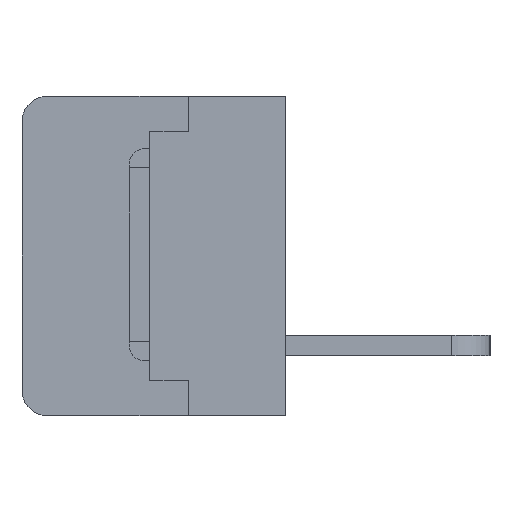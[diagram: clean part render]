
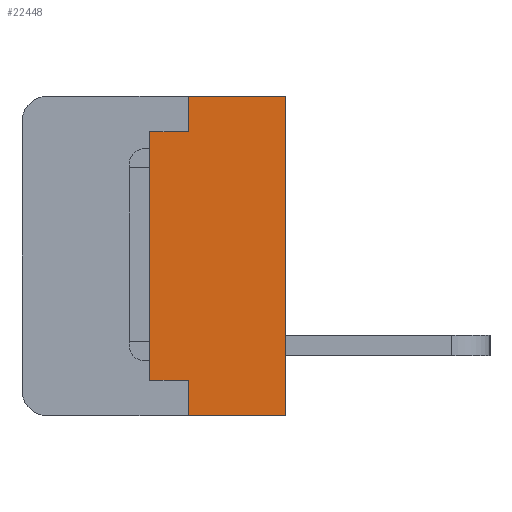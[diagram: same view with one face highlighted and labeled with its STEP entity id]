
A CAD part, left-side view. The second image highlights one B-rep face of the part: STEP entity #22448.
In plain terms, the highlighted planar face has unit normal (-1, 0, 0).
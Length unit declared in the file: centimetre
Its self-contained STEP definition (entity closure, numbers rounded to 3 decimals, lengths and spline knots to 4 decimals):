
#1360=PLANE('',#36937);
#2080=VECTOR('',#23755,1.);
#2175=VECTOR('',#23906,1.);
#2205=VECTOR('',#23939,1.);
#2234=VECTOR('',#23969,1.);
#3437=VECTOR('',#26816,1.);
#3438=VECTOR('',#26817,1.);
#3439=VECTOR('',#26818,1.);
#3440=VECTOR('',#26819,1.);
#4416=LINE('',#29481,#2080);
#4511=LINE('',#29700,#2175);
#4541=LINE('',#29762,#2205);
#4570=LINE('',#29819,#2234);
#5773=LINE('',#34062,#3437);
#5774=LINE('',#34064,#3438);
#5775=LINE('',#34065,#3439);
#5776=LINE('',#34067,#3440);
#6688=VERTEX_POINT('',#29480);
#6689=VERTEX_POINT('',#29482);
#6742=VERTEX_POINT('',#29632);
#6775=VERTEX_POINT('',#29699);
#6805=VERTEX_POINT('',#29761);
#6833=VERTEX_POINT('',#29820);
#8020=VERTEX_POINT('',#34063);
#8021=VERTEX_POINT('',#34066);
#9587=EDGE_CURVE('',#6688,#6689,#4416,.T.);
#9695=EDGE_CURVE('',#6775,#6742,#4511,.T.);
#9726=EDGE_CURVE('',#6742,#6805,#4541,.T.);
#9755=EDGE_CURVE('',#6805,#6833,#4570,.T.);
#11586=EDGE_CURVE('',#8020,#6775,#5773,.T.);
#11587=EDGE_CURVE('',#6689,#8020,#5774,.T.);
#11588=EDGE_CURVE('',#8021,#6688,#5775,.T.);
#11589=EDGE_CURVE('',#6833,#8021,#5776,.T.);
#17635=ORIENTED_EDGE('',*,*,#11586,.F.);
#17636=ORIENTED_EDGE('',*,*,#11587,.F.);
#17637=ORIENTED_EDGE('',*,*,#9587,.F.);
#17638=ORIENTED_EDGE('',*,*,#11588,.F.);
#17639=ORIENTED_EDGE('',*,*,#11589,.F.);
#17640=ORIENTED_EDGE('',*,*,#9755,.F.);
#17641=ORIENTED_EDGE('',*,*,#9726,.F.);
#17642=ORIENTED_EDGE('',*,*,#9695,.F.);
#19817=EDGE_LOOP('',(#17635,#17636,#17637,#17638,#17639,#17640,#17641,#17642));
#21203=FACE_BOUND('',#19817,.T.);
#22448=ADVANCED_FACE('',(#21203),#1360,.F.);
#23755=DIRECTION('',(0.,0.,1.));
#23906=DIRECTION('',(0.,-1.,0.));
#23939=DIRECTION('',(0.,0.,-1.));
#23969=DIRECTION('',(0.,1.,0.));
#26815=DIRECTION('',(1.,0.,0.));
#26816=DIRECTION('',(0.,0.,1.));
#26817=DIRECTION('',(0.,-1.,0.));
#26818=DIRECTION('',(0.,1.,0.));
#26819=DIRECTION('',(0.,0.,1.));
#29480=CARTESIAN_POINT('',(-1.382,0.53,-0.485));
#29481=CARTESIAN_POINT('',(-1.382,0.53,-0.485));
#29482=CARTESIAN_POINT('',(-1.382,0.53,0.485));
#29632=CARTESIAN_POINT('',(-1.382,0.,0.625));
#29699=CARTESIAN_POINT('',(-1.382,0.38,0.625));
#29700=CARTESIAN_POINT('',(-1.382,0.38,0.625));
#29761=CARTESIAN_POINT('',(-1.382,0.,-0.625));
#29762=CARTESIAN_POINT('',(-1.382,0.,0.625));
#29819=CARTESIAN_POINT('',(-1.382,0.,-0.625));
#29820=CARTESIAN_POINT('',(-1.382,0.38,-0.625));
#34061=CARTESIAN_POINT('',(-1.382,0.2532,0.));
#34062=CARTESIAN_POINT('',(-1.382,0.38,0.485));
#34063=CARTESIAN_POINT('',(-1.382,0.38,0.485));
#34064=CARTESIAN_POINT('',(-1.382,0.53,0.485));
#34065=CARTESIAN_POINT('',(-1.382,0.38,-0.485));
#34066=CARTESIAN_POINT('',(-1.382,0.38,-0.485));
#34067=CARTESIAN_POINT('',(-1.382,0.38,-0.625));
#36937=AXIS2_PLACEMENT_3D('',#34061,#26815,$);
